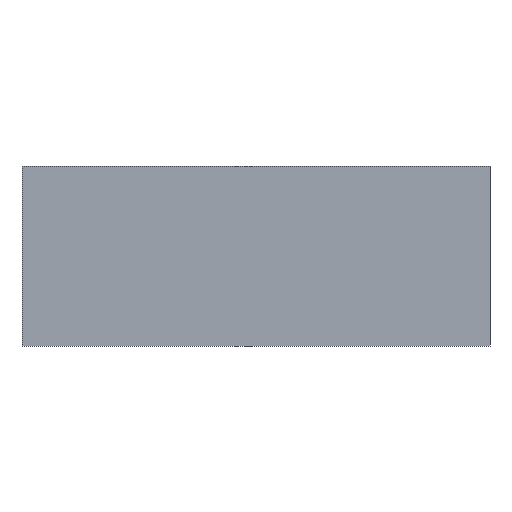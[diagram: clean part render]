
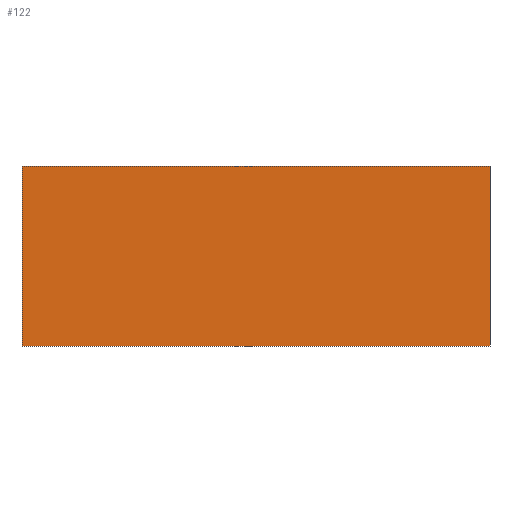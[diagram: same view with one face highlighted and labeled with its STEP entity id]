
A CAD part, left-side view. The second image highlights one B-rep face of the part: STEP entity #122.
In plain terms, the highlighted planar face has unit normal (-1, 0, 0).
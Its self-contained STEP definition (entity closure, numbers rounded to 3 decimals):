
#63=CARTESIAN_POINT('Vertex',(-5.5,-13.,5.)) ;
#77=CARTESIAN_POINT('Vertex',(-5.5,13.,5.)) ;
#80=CARTESIAN_POINT('Line Origine',(-5.5,0.,5.)) ;
#92=CARTESIAN_POINT('Axis2P3D Location',(-5.5,0.,0.)) ;
#97=CARTESIAN_POINT('Line Origine',(-5.5,13.,0.)) ;
#101=CARTESIAN_POINT('Vertex',(-5.5,13.,-5.)) ;
#104=CARTESIAN_POINT('Line Origine',(-5.5,0.,-5.)) ;
#108=CARTESIAN_POINT('Vertex',(-5.5,-13.,-5.)) ;
#111=CARTESIAN_POINT('Line Origine',(-5.5,-13.,0.)) ;
#81=DIRECTION('Vector Direction',(0.,-1.,0.)) ;
#93=DIRECTION('Axis2P3D Direction',(-1.,-0.,0.)) ;
#94=DIRECTION('Axis2P3D XDirection',(0.,-1.,-0.)) ;
#98=DIRECTION('Vector Direction',(0.,0.,1.)) ;
#105=DIRECTION('Vector Direction',(0.,1.,0.)) ;
#112=DIRECTION('Vector Direction',(0.,0.,-1.)) ;
#95=AXIS2_PLACEMENT_3D('Plane Axis2P3D',#92,#93,#94) ;
#117=ORIENTED_EDGE('',*,*,#84,.T.) ;
#118=ORIENTED_EDGE('',*,*,#103,.T.) ;
#119=ORIENTED_EDGE('',*,*,#110,.T.) ;
#120=ORIENTED_EDGE('',*,*,#115,.T.) ;
#82=VECTOR('Line Direction',#81,1.) ;
#99=VECTOR('Line Direction',#98,1.) ;
#106=VECTOR('Line Direction',#105,1.) ;
#113=VECTOR('Line Direction',#112,1.) ;
#122=ADVANCED_FACE('\X2\96F64EF651E04F554F53\X0\',(#121),#96,.T.) ;
#84=EDGE_CURVE('',#64,#78,#83,.F.) ;
#103=EDGE_CURVE('',#78,#102,#100,.F.) ;
#110=EDGE_CURVE('',#102,#109,#107,.F.) ;
#115=EDGE_CURVE('',#109,#64,#114,.F.) ;
#116=EDGE_LOOP('',(#117,#118,#119,#120)) ;
#121=FACE_OUTER_BOUND('',#116,.T.) ;
#83=LINE('Line',#80,#82) ;
#100=LINE('Line',#97,#99) ;
#107=LINE('Line',#104,#106) ;
#114=LINE('Line',#111,#113) ;
#96=PLANE('',#95) ;
#64=VERTEX_POINT('',#63) ;
#78=VERTEX_POINT('',#77) ;
#102=VERTEX_POINT('',#101) ;
#109=VERTEX_POINT('',#108) ;
